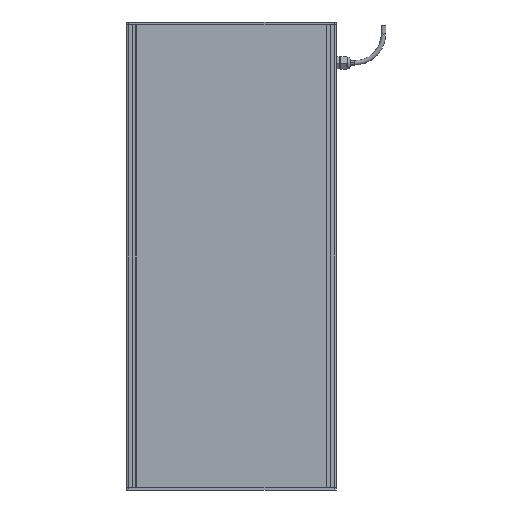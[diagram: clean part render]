
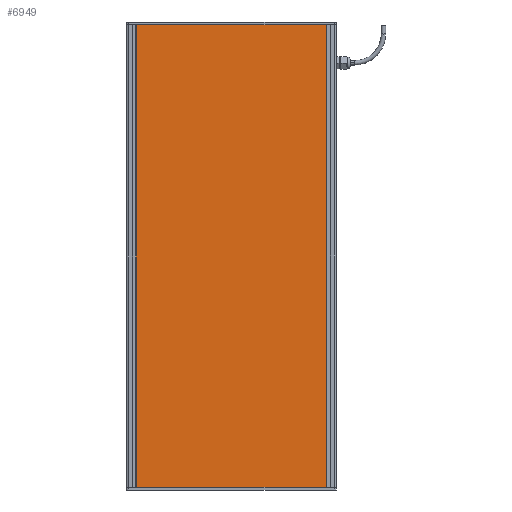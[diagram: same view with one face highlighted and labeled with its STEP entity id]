
A CAD part, front view. The second image highlights one B-rep face of the part: STEP entity #6949.
In plain terms, the highlighted planar face has unit normal (0, -1, 0) as drawn and (0, 0, 1) by its records, which use the part's own axes.
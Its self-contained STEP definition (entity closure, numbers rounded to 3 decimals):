
#446 = VERTEX_POINT ( 'NONE', #9078 ) ;
#479 = DIRECTION ( 'NONE',  ( -1., 0., 0. ) ) ;
#581 = VERTEX_POINT ( 'NONE', #2898 ) ;
#712 = FACE_OUTER_BOUND ( 'NONE', #8669, .T. ) ;
#782 = DIRECTION ( 'NONE',  ( 0., 0., -1. ) ) ;
#1607 = CARTESIAN_POINT ( 'NONE',  ( -9., 0., 0. ) ) ;
#2001 = EDGE_CURVE ( 'NONE', #2044, #12047, #6495, .T. ) ;
#2044 = VERTEX_POINT ( 'NONE', #13621 ) ;
#2898 = CARTESIAN_POINT ( 'NONE',  ( -9., 0., 0. ) ) ;
#3516 = LINE ( 'NONE', #7305, #12686 ) ;
#3589 = DIRECTION ( 'NONE',  ( -1., 0., 0. ) ) ;
#3859 = CARTESIAN_POINT ( 'NONE',  ( -9., -850., 0. ) ) ;
#4200 = VECTOR ( 'NONE', #8102, 1000. ) ;
#5231 = DIRECTION ( 'NONE',  ( 1., 0., 0. ) ) ;
#5749 = LINE ( 'NONE', #14062, #4200 ) ;
#5983 = ORIENTED_EDGE ( 'NONE', *, *, #2001, .T. ) ;
#6495 = LINE ( 'NONE', #3859, #13198 ) ;
#6949 = ADVANCED_FACE ( 'NONE', ( #712 ), #10078, .F. ) ;
#7182 = EDGE_CURVE ( 'NONE', #581, #446, #3516, .T. ) ;
#7305 = CARTESIAN_POINT ( 'NONE',  ( -9., 0., 0. ) ) ;
#8102 = DIRECTION ( 'NONE',  ( 0., -1., 0. ) ) ;
#8669 = EDGE_LOOP ( 'NONE', ( #15067, #10338, #14836, #5983 ) ) ;
#8865 = DIRECTION ( 'NONE',  ( 0., 1., 0. ) ) ;
#9078 = CARTESIAN_POINT ( 'NONE',  ( -359., 0., 0. ) ) ;
#9137 = LINE ( 'NONE', #1607, #13934 ) ;
#9383 = EDGE_CURVE ( 'NONE', #446, #2044, #5749, .T. ) ;
#10078 = PLANE ( 'NONE',  #15204 ) ;
#10338 = ORIENTED_EDGE ( 'NONE', *, *, #7182, .T. ) ;
#11253 = CARTESIAN_POINT ( 'NONE',  ( 0., 0., 0. ) ) ;
#12047 = VERTEX_POINT ( 'NONE', #13559 ) ;
#12076 = EDGE_CURVE ( 'NONE', #12047, #581, #9137, .T. ) ;
#12686 = VECTOR ( 'NONE', #3589, 1000. ) ;
#13198 = VECTOR ( 'NONE', #5231, 1000. ) ;
#13559 = CARTESIAN_POINT ( 'NONE',  ( -9., -850., 0. ) ) ;
#13621 = CARTESIAN_POINT ( 'NONE',  ( -359., -850., 0. ) ) ;
#13934 = VECTOR ( 'NONE', #8865, 1000. ) ;
#14062 = CARTESIAN_POINT ( 'NONE',  ( -359., 0., 0. ) ) ;
#14836 = ORIENTED_EDGE ( 'NONE', *, *, #9383, .T. ) ;
#15067 = ORIENTED_EDGE ( 'NONE', *, *, #12076, .T. ) ;
#15204 = AXIS2_PLACEMENT_3D ( 'NONE', #11253, #782, #479 ) ;
